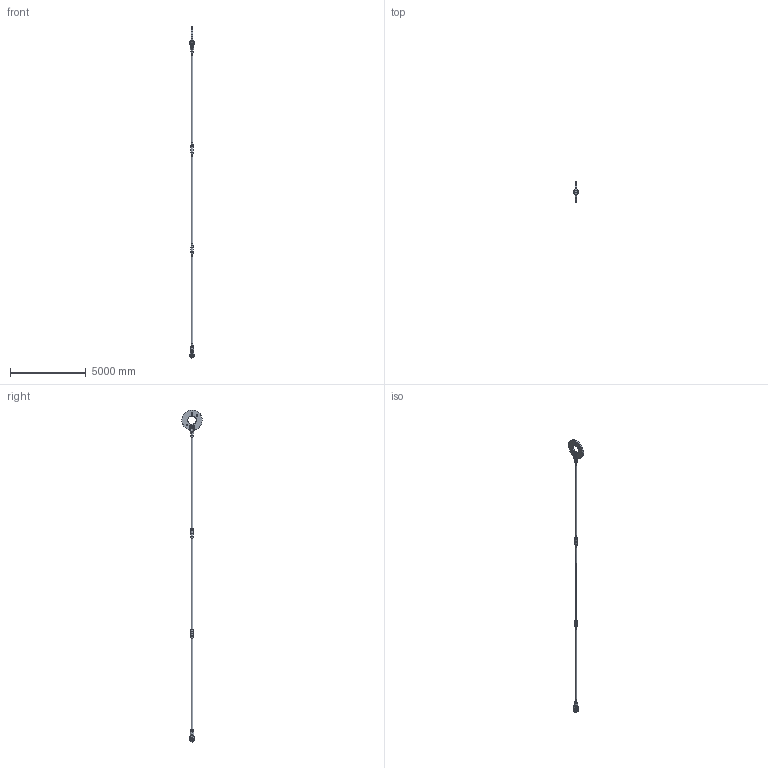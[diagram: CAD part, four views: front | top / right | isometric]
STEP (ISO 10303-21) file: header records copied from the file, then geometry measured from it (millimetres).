
FILE_DESCRIPTION(/* description */ (''),/* implementation_level */ '2;1');
FILE_NAME(/* name */ 'C:\Vault-WS\Anker\Werksnorm\Hochbau\ASDO-System\ASDO-S\für Kunden\3d\Step\M 110.stp',/* time_stamp */ '2014-06-12T09:51:43+02:00',/* author */ ('ritgen'),/* organization */ (''),/* preprocessor_version */ 'ST-DEVELOPER v15.2',/* originating_system */ 'Autodesk Inventor 2014',/* authorisation */ '');
FILE_SCHEMA (('AUTOMOTIVE_DESIGN { 1 0 10303 214 3 1 1 }'));
Length unit declared in the file: millimetre
Products named in the file (11): ASDO-005774; ASDO-014279; ASDO-014329; DIN 7991 - M20x50 - 8.8; ASDO-013948; ASDO-001737; ASDO-001369; ASDO-001468; ASDO-006497; ASDO-014062; ASDO-006496
Bounding box: 272 x 1343.72 x 21930.9 mm (x, y, z)
Volume: 353086258.1 mm3; surface area: 13478310.7 mm2
Topology: 24 solids, 24 shells, 507 faces, 1098 edges, 667 vertices
Faces by surface type: plane 156, bspline 144, cylinder 95, cone 60, torus 52
Full cylindrical faces by diameter (mm): 9 x18, 17.294 x4, 20 x4, 22.5 x4, 25 x4, 36 x4, 103.505 x12, 110 x5, 112 x7, 113 x8, 115 x7, 158 x6, 160 x4, 177.8 x2, 550 x1, 1345 x1
Entity records: 14230 total; most frequent: CARTESIAN_POINT 9877, ORIENTED_EDGE 776, DIRECTION 766, EDGE_CURVE 388, AXIS2_PLACEMENT_3D 361, EDGE_LOOP 346, VERTEX_POINT 278, ADVANCED_FACE 221
